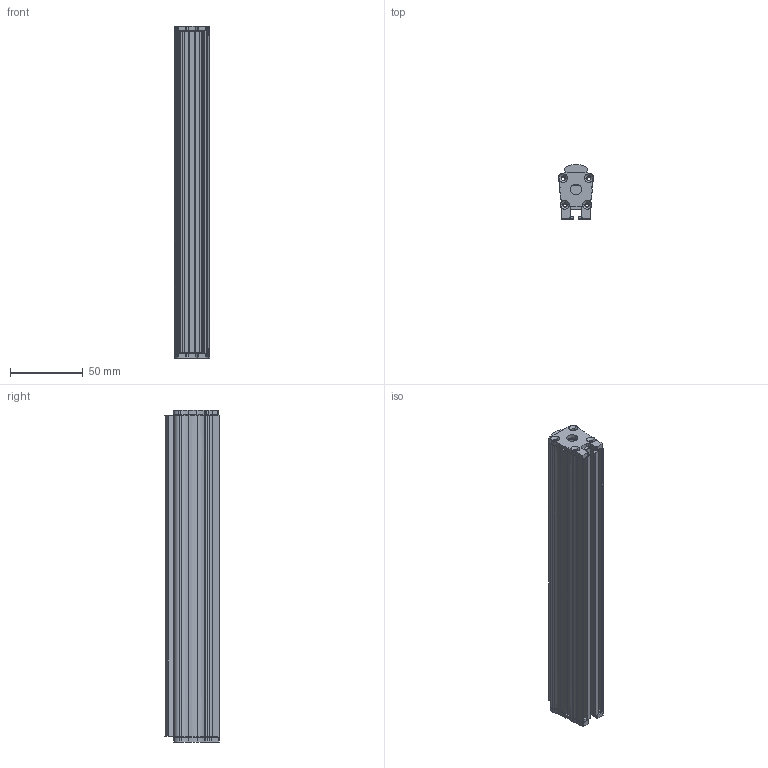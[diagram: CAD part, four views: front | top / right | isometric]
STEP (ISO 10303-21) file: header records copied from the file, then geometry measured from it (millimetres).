
FILE_DESCRIPTION(('STEP AP214'),'1');
FILE_NAME('lin+op 199.stp','2021-02-15T14:40:27',('Blanc'),('Phlox'),'Spatial InterOp 3D',' ',' ');
FILE_SCHEMA(('AUTOMOTIVE_DESIGN { 1 0 10303 214 1 1 1 1 }'));
Length unit declared in the file: inch
Products named in the file (1): Pièce_83634808
Bounding box: 24.54 x 37.28 x 227.56 mm (x, y, z)
Volume: 84164.6 mm3; surface area: 71082.3 mm2
Topology: 6 solids, 6 shells, 380 faces, 1090 edges, 718 vertices
Faces by surface type: cylinder 211, plane 103, bspline 36, cone 16, extrusion 14
Entity records: 25303 total; most frequent: CARTESIAN_POINT 7317, ORIENTED_EDGE 2180, DIRECTION 2086, STYLED_ITEM 1345, PRESENTATION_STYLE_ASSIGNMENT 1345, COLOUR_RGB 1345, EDGE_CURVE 1090, CURVE_STYLE 959
